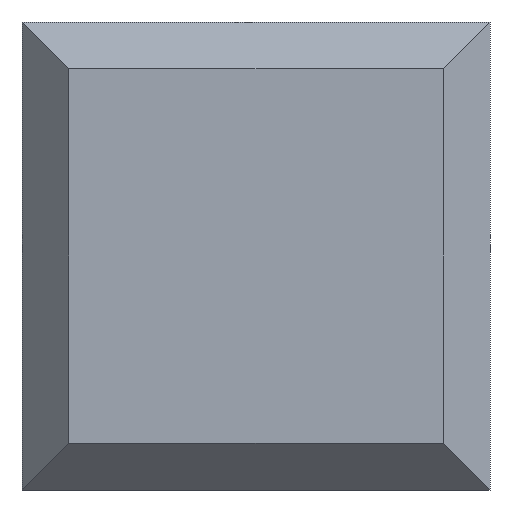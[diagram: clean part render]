
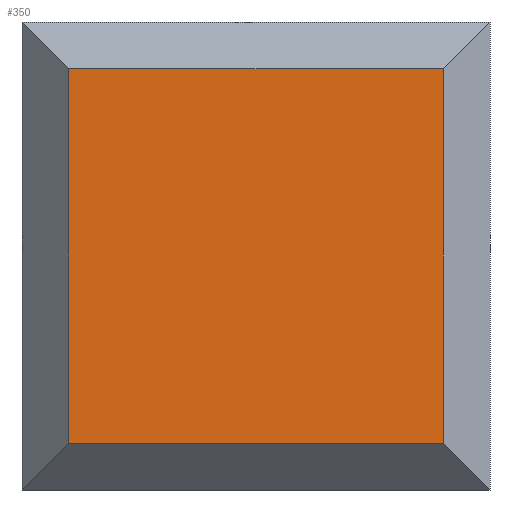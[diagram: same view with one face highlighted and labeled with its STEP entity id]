
A CAD part, front view. The second image highlights one B-rep face of the part: STEP entity #350.
In plain terms, the highlighted planar face has unit normal (0, -1, 0).
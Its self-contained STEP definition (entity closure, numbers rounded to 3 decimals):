
#28 = VERTEX_POINT ( 'NONE', #532 ) ;
#93 = CARTESIAN_POINT ( 'NONE',  ( 4., -4., 4. ) ) ;
#125 = EDGE_CURVE ( 'NONE', #317, #434, #524, .T. ) ;
#132 = CARTESIAN_POINT ( 'NONE',  ( -4., -4., 4. ) ) ;
#137 = CARTESIAN_POINT ( 'NONE',  ( 4., -4., -4. ) ) ;
#150 = VECTOR ( 'NONE', #811, 1000. ) ;
#152 = VECTOR ( 'NONE', #586, 1000. ) ;
#228 = CARTESIAN_POINT ( 'NONE',  ( 5., -4., 4. ) ) ;
#289 = VERTEX_POINT ( 'NONE', #137 ) ;
#310 = EDGE_CURVE ( 'NONE', #289, #28, #907, .T. ) ;
#317 = VERTEX_POINT ( 'NONE', #570 ) ;
#347 = VECTOR ( 'NONE', #864, 1000. ) ;
#350 = ADVANCED_FACE ( 'NONE', ( #563 ), #538, .T. ) ;
#381 = CARTESIAN_POINT ( 'NONE',  ( 5., -4., -4. ) ) ;
#382 = ORIENTED_EDGE ( 'NONE', *, *, #893, .F. ) ;
#434 = VERTEX_POINT ( 'NONE', #132 ) ;
#489 = DIRECTION ( 'NONE',  ( -1., 0., 0. ) ) ;
#511 = DIRECTION ( 'NONE',  ( 0., -1., 0. ) ) ;
#524 = LINE ( 'NONE', #922, #852 ) ;
#532 = CARTESIAN_POINT ( 'NONE',  ( 4., -4., 4. ) ) ;
#538 = PLANE ( 'NONE',  #678 ) ;
#543 = CARTESIAN_POINT ( 'NONE',  ( 4., -4., 4. ) ) ;
#563 = FACE_OUTER_BOUND ( 'NONE', #861, .T. ) ;
#570 = CARTESIAN_POINT ( 'NONE',  ( -4., -4., -4. ) ) ;
#586 = DIRECTION ( 'NONE',  ( 0., 0., 1. ) ) ;
#631 = ORIENTED_EDGE ( 'NONE', *, *, #310, .T. ) ;
#678 = AXIS2_PLACEMENT_3D ( 'NONE', #543, #511, #489 ) ;
#704 = ORIENTED_EDGE ( 'NONE', *, *, #125, .F. ) ;
#730 = DIRECTION ( 'NONE',  ( 0., 0., 1. ) ) ;
#739 = LINE ( 'NONE', #228, #150 ) ;
#811 = DIRECTION ( 'NONE',  ( 1., 0., 0. ) ) ;
#820 = ORIENTED_EDGE ( 'NONE', *, *, #873, .F. ) ;
#852 = VECTOR ( 'NONE', #730, 1000. ) ;
#861 = EDGE_LOOP ( 'NONE', ( #820, #704, #382, #631 ) ) ;
#864 = DIRECTION ( 'NONE',  ( -1., 0., 0. ) ) ;
#873 = EDGE_CURVE ( 'NONE', #434, #28, #739, .T. ) ;
#893 = EDGE_CURVE ( 'NONE', #289, #317, #906, .T. ) ;
#906 = LINE ( 'NONE', #381, #347 ) ;
#907 = LINE ( 'NONE', #93, #152 ) ;
#922 = CARTESIAN_POINT ( 'NONE',  ( -4., -4., 5. ) ) ;
